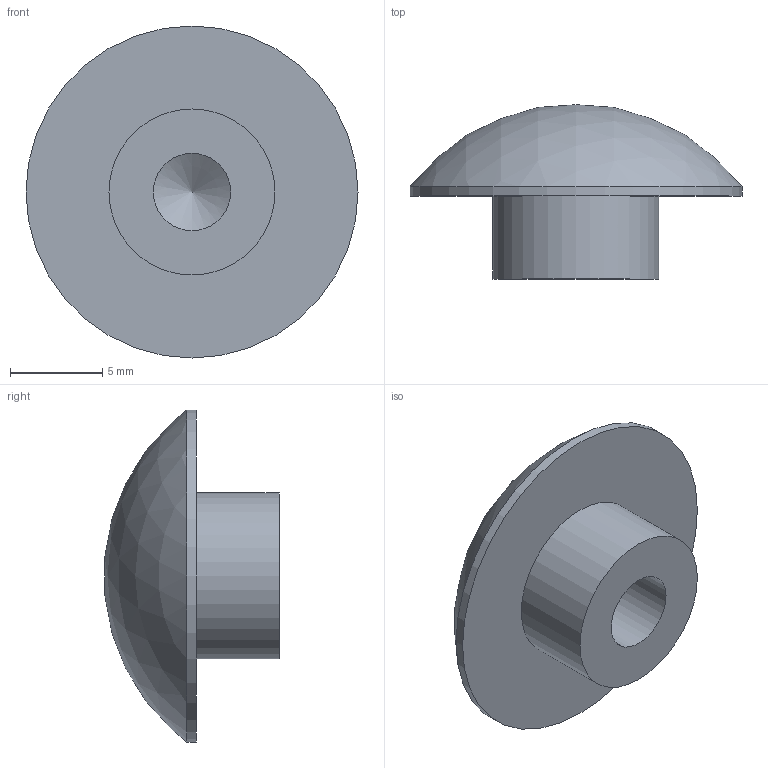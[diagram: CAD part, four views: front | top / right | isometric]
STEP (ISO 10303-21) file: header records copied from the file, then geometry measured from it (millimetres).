
FILE_DESCRIPTION (( 'STEP AP214' ), '1' );
FILE_NAME ('N90208.step', '2024-12-03T16:28:00', ( '' ), ( '' ), 'SwSTEP 2.0', 'SolidWorks 2023', '' );
FILE_SCHEMA (( 'AUTOMOTIVE_DESIGN' ));
Length unit declared in the file: millimetre
Products named in the file (1): N90208
Bounding box: 18 x 9.45 x 18 mm (x, y, z)
Volume: 924 mm3; surface area: 829.3 mm2
Topology: 1 solids, 1 shells, 7 faces, 11 edges, 7 vertices
Faces by surface type: cylinder 3, plane 2, sphere 1, cone 1
Full cylindrical faces by diameter (mm): 4.2 x1, 9 x1, 18 x1
Entity records: 157 total; most frequent: DIRECTION 28, CARTESIAN_POINT 20, AXIS2_PLACEMENT_3D 14, ORIENTED_EDGE 12, EDGE_LOOP 12, FACE_OUTER_BOUND 10, ADVANCED_FACE 7, EDGE_CURVE 6
